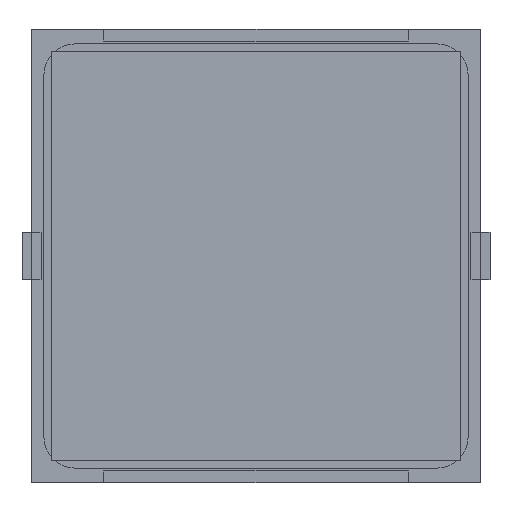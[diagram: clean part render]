
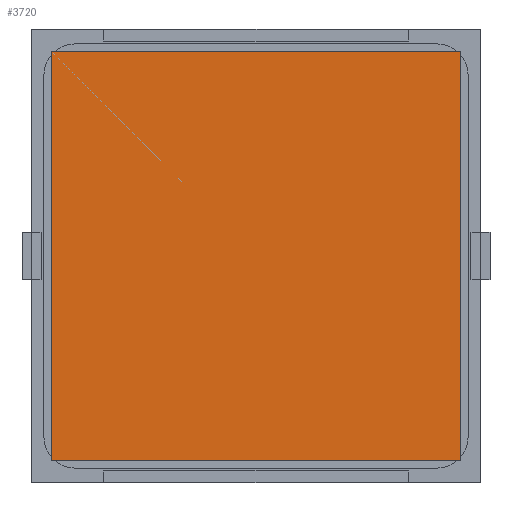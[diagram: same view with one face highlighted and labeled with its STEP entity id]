
A CAD part, front view. The second image highlights one B-rep face of the part: STEP entity #3720.
In plain terms, the highlighted planar face has unit normal (0, -1, 0).
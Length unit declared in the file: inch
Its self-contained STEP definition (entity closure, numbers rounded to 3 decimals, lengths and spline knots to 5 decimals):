
#510 = EDGE_CURVE ( 'NONE', #4621, #8915, #1206, .T. ) ;
#530 = ORIENTED_EDGE ( 'NONE', *, *, #8002, .F. ) ;
#798 = CARTESIAN_POINT ( 'NONE',  ( -0.84646, -0.005, 0.84646 ) ) ;
#839 = DIRECTION ( 'NONE',  ( 0., 0., -1. ) ) ;
#1206 = LINE ( 'NONE', #3397, #6647 ) ;
#1569 = VERTEX_POINT ( 'NONE', #1636 ) ;
#1636 = CARTESIAN_POINT ( 'NONE',  ( 0.84646, -0.005, 0.84646 ) ) ;
#2420 = DIRECTION ( 'NONE',  ( 0., 1., 0. ) ) ;
#3153 = CARTESIAN_POINT ( 'NONE',  ( 0.84646, -0.005, -0.84646 ) ) ;
#3397 = CARTESIAN_POINT ( 'NONE',  ( -0.84646, -0.005, -0.84646 ) ) ;
#3582 = CARTESIAN_POINT ( 'NONE',  ( -0.84646, -0.005, 0.84646 ) ) ;
#3720 = ADVANCED_FACE ( 'NONE', ( #11585 ), #5687, .F. ) ;
#4621 = VERTEX_POINT ( 'NONE', #3153 ) ;
#4643 = CARTESIAN_POINT ( 'NONE',  ( -0.84646, -0.005, -0.84646 ) ) ;
#5163 = EDGE_LOOP ( 'NONE', ( #530, #5917, #9167, #6520 ) ) ;
#5498 = DIRECTION ( 'NONE',  ( 0., 0., 1. ) ) ;
#5687 = PLANE ( 'NONE',  #8341 ) ;
#5917 = ORIENTED_EDGE ( 'NONE', *, *, #510, .F. ) ;
#6520 = ORIENTED_EDGE ( 'NONE', *, *, #9850, .F. ) ;
#6647 = VECTOR ( 'NONE', #7528, 39.37008 ) ;
#6741 = VERTEX_POINT ( 'NONE', #12994 ) ;
#7269 = VECTOR ( 'NONE', #839, 39.37008 ) ;
#7528 = DIRECTION ( 'NONE',  ( -1., 0., 0. ) ) ;
#7696 = EDGE_CURVE ( 'NONE', #1569, #4621, #12846, .T. ) ;
#8002 = EDGE_CURVE ( 'NONE', #8915, #6741, #8767, .T. ) ;
#8341 = AXIS2_PLACEMENT_3D ( 'NONE', #3582, #2420, #5498 ) ;
#8767 = LINE ( 'NONE', #9817, #12394 ) ;
#8915 = VERTEX_POINT ( 'NONE', #4643 ) ;
#9167 = ORIENTED_EDGE ( 'NONE', *, *, #7696, .F. ) ;
#9817 = CARTESIAN_POINT ( 'NONE',  ( -0.84646, -0.005, -0.84646 ) ) ;
#9850 = EDGE_CURVE ( 'NONE', #6741, #1569, #13046, .T. ) ;
#10043 = DIRECTION ( 'NONE',  ( 1., 0., 0. ) ) ;
#11585 = FACE_OUTER_BOUND ( 'NONE', #5163, .T. ) ;
#12394 = VECTOR ( 'NONE', #12944, 39.37008 ) ;
#12749 = VECTOR ( 'NONE', #10043, 39.37008 ) ;
#12846 = LINE ( 'NONE', #12962, #7269 ) ;
#12944 = DIRECTION ( 'NONE',  ( 0., 0., 1. ) ) ;
#12962 = CARTESIAN_POINT ( 'NONE',  ( 0.84646, -0.005, -0.84646 ) ) ;
#12994 = CARTESIAN_POINT ( 'NONE',  ( -0.84646, -0.005, 0.84646 ) ) ;
#13046 = LINE ( 'NONE', #798, #12749 ) ;
